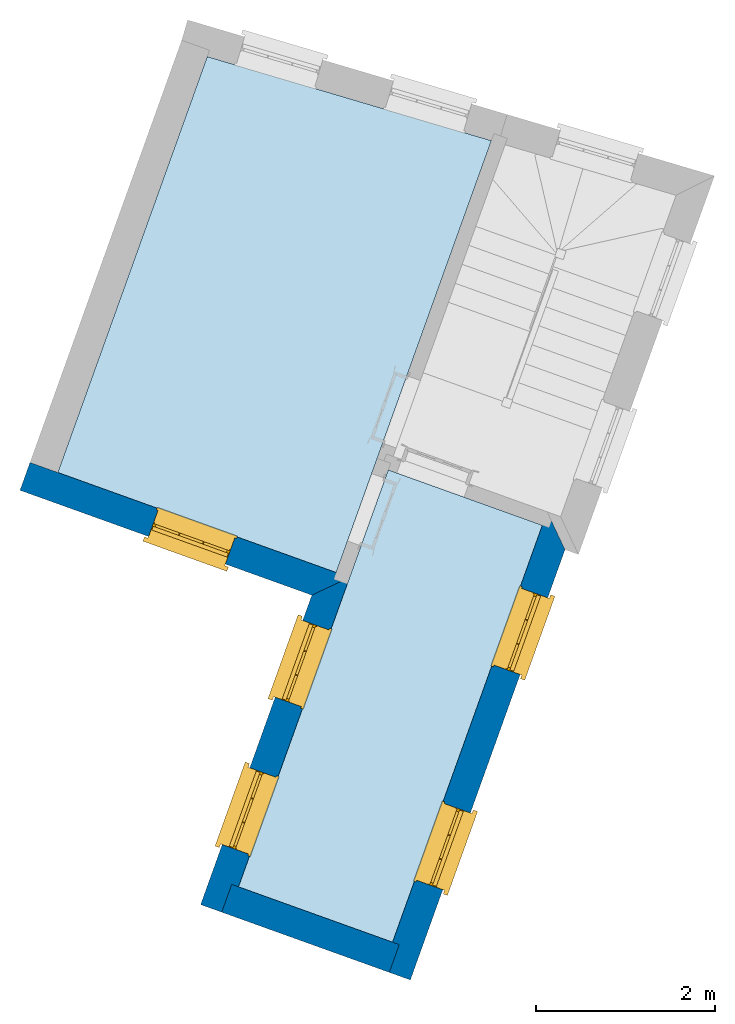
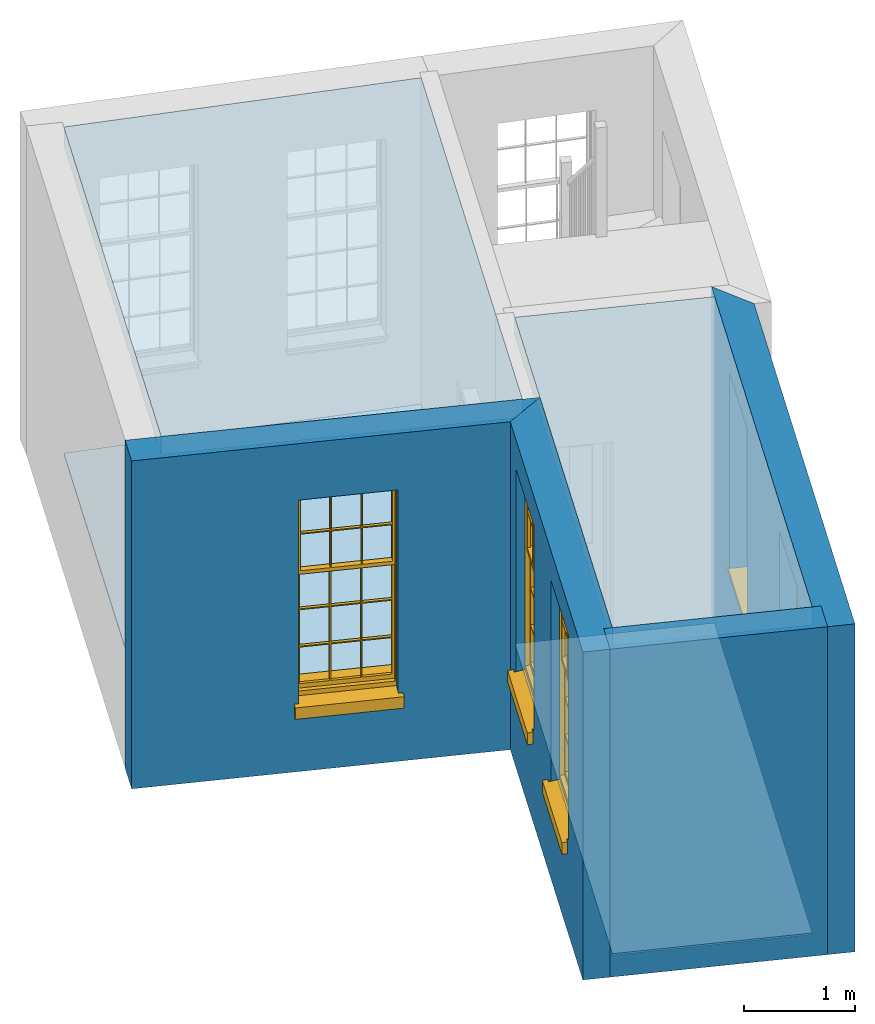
# One storey, part 1 of 3: 5 windows, 4 slabs, 4 walls, 5 openings.
"""IFC4 building model written with IfcOpenShell, lengths in metres."""

from ifc_helpers import new_model, si_unit, frame, origin, origin_with_axes, place, context, subcontext, project, spatial, polyline, outline, extrude, faceted_brep, source, transform, mapped, material, layer, layer_set, layer_usage, type_object, type_shapes, element, fill, save


model = new_model("IFC4")

# Units and contexts
model_context = context("Model", 3, world=origin_with_axes())
body_context = subcontext(model_context, "Body", "Model", "MODEL_VIEW")
ifc_project = project(units=[si_unit("PLANEANGLEUNIT", "RADIAN"), si_unit("MASSUNIT", "GRAM", prefix="KILO"), si_unit("FORCEUNIT", "NEWTON", prefix="KILO"), si_unit("LENGTHUNIT", "METRE"), si_unit("AREAUNIT", "SQUARE_METRE"), si_unit("VOLUMEUNIT", "CUBIC_METRE")], contexts=[model_context, model_context])

# Sites, building, storey
site_1_placement = place(None, origin_with_axes())
site_1 = spatial("IfcSite", under=ifc_project, at=site_1_placement, Name="Tamar")
site_2_placement = place(site_1_placement, origin_with_axes())
site_2 = spatial("IfcSite", under=site_1, at=site_2_placement, Name="Site plot-23", CompositionType="ELEMENT")
building_placement = place(None, origin_with_axes())
building = spatial("IfcBuilding", under=site_2, at=building_placement, Name="Building plot-23", CompositionType="ELEMENT")
storey_placement = place(None, frame((0.0, 0.0, 29.6), z_axis=(0.0, 0.0, 1.0), x_axis=(1.0, 0.0, 0.0)))
storey = spatial("IfcBuildingStorey", under=building, at=storey_placement, Name="plot-23 1", CompositionType="ELEMENT", Elevation=29.6)

# Slabs
slab_1_placement = place(storey_placement, frame((264.403707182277, 273.129802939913, 3.4)))
element("IfcSlab", 1, at=slab_1_placement, inside=storey, Name="My Slab", ObjectType="Slab", PredefinedType="FLOOR", context=body_context, shape_type="SweptSolid", body=[
    extrude(outline(polyline([(0.0, 0.0), (1.67150865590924, 4.65169253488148), (-0.047698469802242, 5.26946113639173), (-1.71920712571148, 0.617768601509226), (0.0, 0.0)])), origin_with_axes(), (0.0, 0.0, 1.0), 0.2),
])
slab_2_placement = place(storey_placement, frame((264.403707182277, 273.129802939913, 0.0)))
element("IfcSlab", 2, at=slab_2_placement, inside=storey, Name="My Slab", ObjectType="Slab", PredefinedType="FLOOR", context=body_context, shape_type="SweptSolid", body=[
    extrude(outline(polyline([(0.0, 0.0), (1.67150865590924, 4.65169253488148), (-0.047698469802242, 5.26946113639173), (-1.71920712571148, 0.617768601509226), (0.0, 0.0)])), origin_with_axes(), (0.0, 0.0, 1.0), 0.02),
])
slab_3_placement = place(storey_placement, frame((260.668706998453, 278.371056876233, 3.4)))
element("IfcSlab", 3, at=slab_3_placement, inside=storey, Name="My Slab", ObjectType="Slab", PredefinedType="FLOOR", context=body_context, shape_type="SweptSolid", body=[
    extrude(outline(polyline([(0.0, 0.0), (3.10608986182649, -1.11612193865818), (4.83756559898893, 3.70245481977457), (1.6674885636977, 4.64050489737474), (0.0, 0.0)])), origin_with_axes(), (0.0, 0.0, 1.0), 0.2),
])
slab_4_placement = place(storey_placement, frame((260.668706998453, 278.371056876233, 0.0)))
element("IfcSlab", 4, at=slab_4_placement, inside=storey, Name="My Slab", ObjectType="Slab", PredefinedType="FLOOR", context=body_context, shape_type="SweptSolid", body=[
    extrude(outline(polyline([(0.0, 0.0), (3.10608986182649, -1.11612193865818), (4.83756559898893, 3.70245481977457), (1.6674885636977, 4.64050489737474), (0.0, 0.0)])), origin_with_axes(), (0.0, 0.0, 1.0), 0.02),
])

# Wall, openings, windows
ifc_material_1 = material(Name="Masonry")
ifc_layer_1 = layer(ifc_material_1, 0.33, ventilated=False)
ifc_layer_set_1 = layer_set([ifc_layer_1], Name="exterior_0.08_0.25")
ifc_layer_usage_1 = layer_usage(ifc_layer_set_1, "AXIS2", "POSITIVE", -0.25)
wall_type_1 = type_object("IfcWallType", Name="exterior_0.08_0.25", PredefinedType="SOLIDWALL", material=ifc_layer_set_1)
wall_1_placement = place(storey_placement, frame((264.45194102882, 273.027462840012, 0.0), z_axis=(0.0, 0.0, 1.0), x_axis=(0.338164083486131, 0.941087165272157, 0.0)))
wall_1 = element("IfcWall", 5, at=wall_1_placement, inside=storey, type_object=wall_type_1, material=ifc_layer_usage_1, Name="exterior", context=body_context, shape_type="SweptSolid", body=[
    extrude(outline(polyline([(-0.250000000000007, 0.0799999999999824), (-0.250000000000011, -0.249999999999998), (4.85289233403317, -0.250000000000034), (5.182892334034, 0.0799999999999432), (-0.250000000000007, 0.0799999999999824)])), origin_with_axes(), (0.0, 0.0, 1.0), 3.6),
])
opening_1_placement = place(wall_1_placement, frame((0.820723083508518, 0.0, 1.05)))
opening_1 = element("IfcOpeningElement", 6, at=opening_1_placement, cuts=wall_1, Name="My Opening", ObjectType="Opening", context=body_context, shape_type="SweptSolid", body=[
    extrude(outline(polyline([(0.0, -0.27), (0.910000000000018, -0.269999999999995), (0.909999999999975, 1.10000000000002), (-4.2632564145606e-14, 1.10000000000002), (0.0, -0.27)])), origin_with_axes(), (0.0, 0.0, 1.0), 2.23),
])
opening_2_placement = place(wall_1_placement, frame((3.37216925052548, 0.0, 1.05)))
opening_2 = element("IfcOpeningElement", 7, at=opening_2_placement, cuts=wall_1, Name="My Opening", ObjectType="Opening", context=body_context, shape_type="SweptSolid", body=[
    extrude(outline(polyline([(0.0, -0.270000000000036), (0.910000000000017, -0.270000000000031), (0.909999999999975, 1.09999999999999), (-4.35207425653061e-14, 1.09999999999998), (0.0, -0.270000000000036)])), origin_with_axes(), (0.0, 0.0, 1.0), 2.23),
])
window_type = type_object("IfcWindowType", Name="sash_big_taller", PartitioningType="DOUBLE_PANEL_HORIZONTAL", PredefinedType="NOTDEFINED")
shared_shape = source(origin(), body_context, "Body", "Brep", [
    faceted_brep([(0.033125, 0.145, 1.385209), (0.01, 0.145, 1.385209), (0.033125, 0.145, 1.786042), (0.876875, 0.145, 1.385209), (0.876875, 0.145, 1.786042), (0.9, 0.145, 1.385209), (0.876875, 0.145, 1.796042), (0.876875, 0.145, 2.196875), (0.9, 0.145, 2.22), (0.033125, 0.145, 2.196875), (0.033125, 0.145, 1.796042), (0.01, 0.145, 2.22), (0.876875, 0.115, 1.786042), (0.876875, 0.115, 1.385209), (0.9, 0.115, 1.347084), (0.033125, 0.115, 2.196875), (0.01, 0.115, 2.22), (0.033125, 0.115, 1.796042), (0.01, 0.115, 1.347084), (0.033125, 0.115, 1.385209), (0.033125, 0.115, 1.786042), (0.876875, 0.115, 2.196875), (0.876875, 0.115, 1.796042), (0.9, 0.115, 2.22), (0.033125, 0.145, 1.347084), (0.01, 0.145, 1.347084), (0.033125, 0.145, 0.94625), (0.876875, 0.145, 1.347084), (0.876875, 0.145, 0.94625), (0.9, 0.145, 1.347084), (0.876875, 0.145, 0.52625), (0.876875, 0.145, 0.125417), (0.9, 0.145, 0.077167), (0.033125, 0.145, 0.125417), (0.033125, 0.145, 0.52625), (0.01, 0.145, 0.077167), (-0.0425, 0.0, 0.01), (-0.0425, -0.05, 0.001667), (0.0, 0.0, 0.01), (0.9525, 0.0, 0.01), (0.91, 0.0, 0.01), (0.9525, -0.05, 0.001667), (-0.02, 0.33, 0.077167), (0.0, 0.33, 0.077167), (-0.02, 0.36, 0.077167), (0.0, 0.19, 0.077167), (0.01, 0.19, 0.077167), (0.91, 0.19, 0.077167), (0.91, 0.33, 0.077167), (0.9, 0.19, 0.077167), (0.93, 0.33, 0.077167), (0.93, 0.36, 0.077167), (0.01, 0.175, 1.385209), (0.9, 0.175, 1.385209), (0.876875, 0.175, 0.125417), (0.876875, 0.175, 0.52625), (0.9, 0.175, 0.077167), (0.876875, 0.175, 0.94625), (0.876875, 0.175, 1.347084), (0.033125, 0.175, 0.125417), (0.01, 0.175, 0.077167), (0.033125, 0.175, 0.52625), (0.033125, 0.175, 1.347084), (0.033125, 0.175, 0.94625), (-0.02, 0.33, 0.052167), (-0.02, 0.36, 0.052167), (0.93, 0.36, 0.052167), (0.93, 0.33, 0.052167), (0.91, 0.33, 0.052167), (0.0, 0.33, 0.052167), (0.91, 0.1, 0.026667), (0.0, 0.1, 0.026667), (-0.0425, -0.05, -0.123333), (0.9525, -0.05, -0.123333), (-0.0425, 0.0, -0.123333), (0.9525, 0.0, -0.123333), (0.01, 0.19, 2.22), (0.9, 0.19, 2.22), (0.0, 0.19, 2.23), (0.91, 0.19, 2.23), (0.01, 0.1, 0.077167), (0.9, 0.1, 0.077167), (0.592292, 0.145, 0.125417), (0.592292, 0.175, 0.125417), (0.317708, 0.175, 0.125417), (0.317708, 0.145, 0.125417), (0.592292, 0.145, 0.53625), (0.317708, 0.145, 0.53625), (0.317708, 0.145, 0.52625), (0.592292, 0.145, 0.52625), (0.592292, 0.175, 0.53625), (0.317708, 0.175, 0.53625), (0.592292, 0.115, 1.796042), (0.592292, 0.145, 1.796042), (0.317708, 0.145, 1.796042), (0.317708, 0.115, 1.796042), (0.317708, 0.115, 1.786042), (0.592292, 0.115, 1.786042), (0.317708, 0.145, 1.786042), (0.592292, 0.145, 1.786042), (0.602292, 0.115, 1.786042), (0.592292, 0.115, 1.385209), (0.602292, 0.115, 1.385209), (0.602292, 0.145, 1.385209), (0.592292, 0.145, 1.385209), (0.602292, 0.145, 1.786042), (0.876875, 0.145, 0.53625), (0.876875, 0.175, 0.53625), (0.602292, 0.175, 0.53625), (0.602292, 0.145, 0.53625), (0.317708, 0.175, 0.52625), (0.307708, 0.175, 0.125417), (0.307708, 0.175, 0.52625), (0.602292, 0.175, 0.52625), (0.602292, 0.175, 0.125417), (0.592292, 0.175, 0.52625), (0.307708, 0.175, 0.53625), (0.033125, 0.175, 0.53625), (0.317708, 0.175, 1.347084), (0.317708, 0.175, 0.94625), (0.307708, 0.175, 0.94625), (0.307708, 0.175, 1.347084), (0.602292, 0.175, 1.347084), (0.602292, 0.175, 0.94625), (0.592292, 0.175, 0.94625), (0.592292, 0.175, 1.347084), (0.307708, 0.145, 0.52625), (0.307708, 0.145, 0.125417), (0.307708, 0.145, 0.53625), (0.033125, 0.145, 0.53625), (0.307708, 0.145, 1.347084), (0.307708, 0.145, 0.94625), (0.592292, 0.145, 1.347084), (0.592292, 0.145, 0.94625), (0.317708, 0.145, 0.94625), (0.317708, 0.145, 1.347084), (0.602292, 0.145, 0.94625), (0.602292, 0.145, 1.347084), (0.602292, 0.145, 0.52625), (0.602292, 0.145, 0.125417), (0.307708, 0.115, 1.796042), (0.307708, 0.115, 1.786042), (0.307708, 0.115, 1.385209), (0.317708, 0.115, 1.385209), (0.317708, 0.115, 2.196875), (0.307708, 0.115, 2.196875), (0.602292, 0.115, 2.196875), (0.592292, 0.115, 2.196875), (0.602292, 0.115, 1.796042), (0.602292, 0.145, 1.796042), (0.307708, 0.145, 1.796042), (0.307708, 0.145, 2.196875), (0.317708, 0.145, 2.196875), (0.592292, 0.145, 2.196875), (0.602292, 0.145, 2.196875), (0.307708, 0.145, 1.786042), (0.317708, 0.145, 1.385209), (0.307708, 0.145, 1.385209), (0.876875, 0.175, 0.93625), (0.033125, 0.175, 0.93625), (0.033125, 0.145, 0.93625), (0.876875, 0.145, 0.93625), (0.91, 0.1, 2.23), (0.9, 0.1, 2.22), (0.01, 0.1, 2.22), (0.0, 0.1, 2.23), (0.91, 0.0, 0.0), (0.0, 0.0, 0.0), (0.91, 0.33, 0.0), (0.0, 0.33, 0.0), (0.317708, 0.145, 0.93625), (0.592292, 0.145, 0.93625), (0.317708, 0.175, 0.93625), (0.307708, 0.175, 0.93625), (0.602292, 0.175, 0.93625), (0.592292, 0.175, 0.93625), (0.307708, 0.145, 0.93625), (0.602292, 0.145, 0.93625)], [[[0, 1, 2]], [[3, 4, 5]], [[6, 7, 8]], [[9, 10, 11]], [[12, 13, 14]], [[15, 16, 17]], [[18, 19, 20]], [[21, 22, 23]], [[24, 25, 26]], [[27, 28, 29]], [[30, 31, 32]], [[33, 34, 35]], [[14, 27, 29]], [[25, 24, 18]], [[36, 37, 38]], [[39, 40, 41]], [[42, 43, 44]], [[45, 46, 43]], [[47, 48, 49]], [[50, 51, 48]], [[1, 0, 52]], [[5, 53, 3]], [[54, 55, 56]], [[57, 58, 53]], [[59, 60, 61]], [[62, 63, 52]], [[48, 43, 46, 49]], [[51, 44, 43, 48]], [[64, 42, 44, 65]], [[65, 44, 51, 66]], [[66, 51, 50, 67]], [[65, 66, 68, 69]], [[60, 56, 49, 46]], [[70, 71, 38, 40]], [[37, 41, 40, 38]], [[37, 72, 73, 41]], [[74, 75, 73, 72]], [[8, 11, 76, 77]], [[76, 78, 79, 77]], [[32, 35, 80, 81]], [[81, 80, 71, 70]], [[82, 83, 84, 85]], [[86, 87, 88, 89]], [[86, 90, 91, 87]], [[92, 93, 94, 95]], [[92, 95, 96, 97]], [[96, 98, 99, 97]], [[100, 97, 101, 102]], [[103, 104, 99, 105]], [[97, 99, 104, 101]], [[102, 103, 105, 100]], [[106, 107, 108, 109]], [[110, 84, 111, 112]], [[113, 114, 83, 115]], [[116, 112, 61, 117]], [[90, 115, 110, 91]], [[118, 119, 120, 121]], [[122, 123, 124, 125]], [[113, 108, 107, 55]], [[126, 112, 111, 127]], [[34, 61, 112, 126]], [[89, 115, 83, 82]], [[88, 110, 115, 89]], [[85, 84, 110, 88]], [[128, 116, 117, 129]], [[130, 121, 120, 131]], [[132, 125, 124, 133]], [[134, 119, 118, 135]], [[136, 123, 122, 137]], [[138, 113, 55, 30]], [[139, 114, 113, 138]], [[138, 30, 106, 109]], [[88, 126, 127, 85]], [[138, 89, 82, 139]], [[137, 132, 133, 136]], [[128, 129, 34, 126]], [[135, 130, 131, 134]], [[140, 17, 20, 141]], [[96, 141, 142, 143]], [[144, 145, 140, 95]], [[146, 147, 92, 148]], [[100, 12, 22, 148]], [[149, 6, 4, 105]], [[94, 150, 151, 152]], [[149, 93, 153, 154]], [[99, 98, 94, 93]], [[155, 2, 10, 150]], [[156, 157, 155, 98]], [[141, 155, 157, 142]], [[20, 2, 155, 141]], [[143, 156, 98, 96]], [[140, 150, 10, 17]], [[145, 151, 150, 140]], [[147, 153, 93, 92]], [[95, 94, 152, 144]], [[22, 6, 149, 148]], [[148, 149, 154, 146]], [[100, 105, 4, 12]], [[109, 86, 89, 138]], [[108, 113, 115, 90]], [[91, 110, 112, 116]], [[87, 128, 126, 88]], [[97, 100, 148, 92]], [[141, 96, 95, 140]], [[98, 155, 150, 94]], [[105, 99, 93, 149]], [[143, 101, 104, 156]], [[135, 118, 125, 132]], [[144, 152, 153, 147]], [[127, 111, 59, 33]], [[15, 9, 151, 145]], [[146, 154, 7, 21]], [[31, 54, 114, 139]], [[36, 74, 72, 37]], [[39, 41, 73, 75]], [[18, 14, 101, 143]], [[23, 16, 144, 147]], [[83, 56, 60, 84]], [[52, 53, 125, 118]], [[53, 52, 156, 104]], [[11, 8, 153, 152]], [[14, 18, 135, 132]], [[2, 1, 11, 10]], [[8, 5, 4, 6]], [[57, 53, 56, 158]], [[60, 52, 63, 159]], [[26, 25, 35, 160]], [[32, 29, 28, 161]], [[14, 23, 22, 12]], [[18, 20, 17, 16]], [[19, 0, 2, 20]], [[17, 10, 9, 15]], [[12, 4, 3, 13]], [[21, 7, 6, 22]], [[27, 58, 57, 28]], [[30, 55, 54, 31]], [[33, 59, 61, 34]], [[26, 63, 62, 24]], [[5, 8, 77, 53]], [[76, 11, 1, 52]], [[46, 45, 78, 76]], [[49, 77, 79, 47]], [[70, 162, 163, 81]], [[71, 80, 164, 165]], [[19, 142, 157, 0]], [[102, 13, 3, 103]], [[121, 130, 24, 62]], [[29, 32, 81, 14]], [[80, 35, 25, 18]], [[60, 46, 76, 52]], [[77, 49, 56, 53]], [[23, 14, 81, 163]], [[16, 164, 80, 18]], [[35, 85, 127]], [[127, 33, 35]], [[139, 82, 32]], [[32, 31, 139]], [[32, 82, 85, 35]], [[102, 101, 14]], [[14, 13, 102]], [[18, 143, 142]], [[142, 19, 18]], [[146, 21, 23]], [[23, 147, 146]], [[16, 15, 145]], [[145, 144, 16]], [[11, 152, 151]], [[151, 9, 11]], [[154, 153, 8]], [[8, 7, 154]], [[23, 163, 164, 16]], [[162, 165, 164, 163]], [[52, 118, 121]], [[121, 62, 52]], [[125, 53, 122]], [[58, 122, 53]], [[27, 137, 122, 58]], [[56, 83, 114]], [[114, 54, 56]], [[111, 84, 60]], [[60, 59, 111]], [[137, 27, 14]], [[14, 132, 137]], [[130, 135, 18]], [[18, 24, 130]], [[157, 156, 52]], [[52, 0, 157]], [[103, 3, 53]], [[53, 104, 103]], [[79, 78, 165, 162]], [[78, 45, 71, 165]], [[162, 70, 47, 79]], [[166, 75, 74, 167]], [[68, 66, 67]], [[48, 68, 67, 50]], [[69, 64, 65]], [[42, 64, 69, 43]], [[69, 68, 168, 169]], [[70, 68, 48, 47]], [[166, 168, 68, 70]], [[43, 69, 71, 45]], [[69, 169, 167, 71]], [[168, 166, 167, 169]], [[38, 167, 74, 36]], [[71, 167, 38]], [[39, 75, 166, 40]], [[40, 166, 70]], [[133, 134, 170, 171]], [[133, 124, 119, 134]], [[28, 57, 123, 136]], [[172, 91, 116, 173]], [[174, 108, 90, 175]], [[120, 173, 159, 63]], [[124, 175, 172, 119]], [[174, 123, 57, 158]], [[176, 173, 116, 128]], [[160, 159, 173, 176]], [[171, 175, 90, 86]], [[170, 172, 175, 171]], [[87, 91, 172, 170]], [[131, 120, 63, 26]], [[177, 174, 158, 161]], [[109, 108, 174, 177]], [[177, 161, 28, 136]], [[170, 176, 128, 87]], [[177, 171, 86, 109]], [[131, 26, 160, 176]], [[136, 133, 171, 177]], [[123, 174, 175, 124]], [[119, 172, 173, 120]], [[134, 131, 176, 170]], [[129, 117, 159, 160]], [[161, 158, 107, 106]], [[35, 34, 129]], [[35, 129, 160]], [[32, 106, 30]], [[32, 161, 106]], [[56, 55, 107]], [[56, 107, 158]], [[60, 117, 61]], [[60, 159, 117]]]),
])
type_shapes(window_type, [shared_shape])
window_1_placement = place(storey_placement, frame((264.983573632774, 273.708530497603, 1.05), z_axis=(0.0, 0.0, 1.0), x_axis=(0.307729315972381, 0.856389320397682, 0.0)))
window_1 = element("IfcWindow", 8, at=window_1_placement, inside=storey, type_object=window_type, Name="kitchen outside window", OverallHeight=2.23, OverallWidth=0.91, context=body_context, shape_type="MappedRepresentation", body=[
    mapped(shared_shape, transform((0.0, 0.0, 0.0), scale=1.0)),
])
fill(opening_1, window_1)
window_2_placement = place(storey_placement, frame((265.846381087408, 276.109663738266, 1.05), z_axis=(0.0, 0.0, 1.0), x_axis=(0.307729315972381, 0.856389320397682, 0.0)))
window_2 = element("IfcWindow", 9, at=window_2_placement, inside=storey, type_object=window_type, Name="kitchen outside window", OverallHeight=2.23, OverallWidth=0.91, context=body_context, shape_type="MappedRepresentation", body=[
    mapped(shared_shape, transform((0.0, 0.0, 0.0), scale=1.0)),
])
fill(opening_2, window_2)

# Wall, opening, window
wall_2_placement = place(storey_placement, frame((260.566366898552, 278.32282302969, 0.0), z_axis=(0.0, 0.0, 1.0), x_axis=(0.94108716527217, -0.338164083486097, 0.0)))
wall_2 = element("IfcWall", 10, at=wall_2_placement, inside=storey, type_object=wall_type_1, material=ifc_layer_usage_1, Name="exterior", context=body_context, shape_type="SweptSolid", body=[
    extrude(outline(polyline([(-0.250000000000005, 0.0799999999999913), (-0.25000000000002, -0.249999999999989), (3.21053365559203, -0.250000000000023), (3.54053365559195, 0.0799999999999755), (-0.250000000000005, 0.0799999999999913)])), origin_with_axes(), (0.0, 0.0, 1.0), 3.6),
])
opening_3_placement = place(wall_2_placement, frame((1.27526682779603, 0.0, 0.75)))
opening_3 = element("IfcOpeningElement", 11, at=opening_3_placement, cuts=wall_2, Name="My Opening", ObjectType="Opening", context=body_context, shape_type="SweptSolid", body=[
    extrude(outline(polyline([(0.0, -0.269999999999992), (0.909999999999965, -0.270000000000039), (0.909999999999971, 1.09999999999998), (5.99520433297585e-15, 1.10000000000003), (0.0, -0.269999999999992)])), origin_with_axes(), (0.0, 0.0, 1.0), 2.23),
])
window_3_placement = place(storey_placement, frame((261.675199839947, 277.637480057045, 0.75), z_axis=(0.0, 0.0, 1.0), x_axis=(0.856389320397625, -0.307729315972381, 0.0)))
window_3 = element("IfcWindow", 12, at=window_3_placement, inside=storey, type_object=window_type, Name="living outside window", OverallHeight=2.23, OverallWidth=0.91, context=body_context, shape_type="MappedRepresentation", body=[
    mapped(shared_shape, transform((0.0, 0.0, 0.0), scale=1.0)),
])
fill(opening_3, window_3)

# Wall, openings, windows
wall_3_placement = place(storey_placement, frame((263.823030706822, 277.152594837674, 0.0), z_axis=(0.0, 0.0, 1.0), x_axis=(-0.338164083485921, -0.941087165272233, 0.0)))
wall_3 = element("IfcWall", 13, at=wall_3_placement, inside=storey, type_object=wall_type_1, material=ifc_layer_usage_1, Name="exterior", context=body_context, shape_type="SweptSolid", body=[
    extrude(outline(polyline([(-0.0799999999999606, 0.0799999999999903), (0.249999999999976, -0.249999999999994), (3.91943389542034, -0.249999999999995), (3.91943389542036, 0.0799999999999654), (-0.0799999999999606, 0.0799999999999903)])), origin_with_axes(), (0.0, 0.0, 1.0), 3.6),
])
opening_4_placement = place(wall_3_placement, frame((0.550000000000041, 0.0, 1.05)))
opening_4 = element("IfcOpeningElement", 14, at=opening_4_placement, cuts=wall_3, Name="My Opening", ObjectType="Opening", context=body_context, shape_type="SweptSolid", body=[
    extrude(outline(polyline([(0.0, -0.269999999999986), (0.910000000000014, -0.270000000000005), (0.909999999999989, 1.09999999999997), (-2.46469511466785e-14, 1.09999999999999), (0.0, -0.269999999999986)])), origin_with_axes(), (0.0, 0.0, 1.0), 2.23),
])
opening_5_placement = place(wall_3_placement, frame((2.29707542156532, 0.0, 1.05)))
opening_5 = element("IfcOpeningElement", 15, at=opening_5_placement, cuts=wall_3, Name="My Opening", ObjectType="Opening", context=body_context, shape_type="SweptSolid", body=[
    extrude(outline(polyline([(0.0, -0.269999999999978), (0.90999999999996, -0.270000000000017), (0.909999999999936, 1.09999999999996), (-2.44249065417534e-14, 1.1), (0.0, -0.269999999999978)])), origin_with_axes(), (0.0, 0.0, 1.0), 2.23),
])
window_4_placement = place(storey_placement, frame((263.382946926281, 276.726301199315, 1.05), z_axis=(0.0, 0.0, 1.0), x_axis=(-0.30772931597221, -0.856389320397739, 0.0)))
window_4 = element("IfcWindow", 16, at=window_4_placement, inside=storey, type_object=window_type, Name="kitchen outside window", OverallHeight=2.23, OverallWidth=0.91, context=body_context, shape_type="MappedRepresentation", body=[
    mapped(shared_shape, transform((0.0, 0.0, 0.0), scale=1.0)),
])
fill(opening_4, window_4)
window_5_placement = place(storey_placement, frame((262.792148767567, 275.082150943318, 1.05), z_axis=(0.0, 0.0, 1.0), x_axis=(-0.30772931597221, -0.856389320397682, 0.0)))
window_5 = element("IfcWindow", 17, at=window_5_placement, inside=storey, type_object=window_type, Name="kitchen outside window", OverallHeight=2.23, OverallWidth=0.91, context=body_context, shape_type="MappedRepresentation", body=[
    mapped(shared_shape, transform((0.0, 0.0, 0.0), scale=1.0)),
])
fill(opening_5, window_5)

# Wall
ifc_material_2 = material(Name="Masonry")
ifc_layer_2 = layer(ifc_material_2, 0.33, ventilated=False)
ifc_layer_set_2 = layer_set([ifc_layer_2], Name="party_0.08_0.25")
ifc_layer_usage_2 = layer_usage(ifc_layer_set_2, "AXIS2", "POSITIVE", -0.25)
wall_type_2 = type_object("IfcWallType", Name="party_0.08_0.25", PredefinedType="SOLIDWALL", material=ifc_layer_set_2)
wall_4_placement = place(storey_placement, frame((262.582159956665, 273.699337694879, 0.0), z_axis=(0.0, 0.0, 1.0), x_axis=(0.941087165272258, -0.338164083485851, 0.0)))
element("IfcWall", 18, at=wall_4_placement, inside=storey, type_object=wall_type_2, material=ifc_layer_usage_2, Name="party", context=body_context, shape_type="SweptSolid", body=[
    extrude(outline(polyline([(1.60361974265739e-15, 0.0800000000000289), (-2.75794552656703e-14, -0.249999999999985), (1.98683091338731, -0.249999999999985), (1.98683091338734, 0.0800000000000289), (1.60361974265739e-15, 0.0800000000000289)])), origin_with_axes(), (0.0, 0.0, 1.0), 3.6),
])

save(model, "model.ifc")
